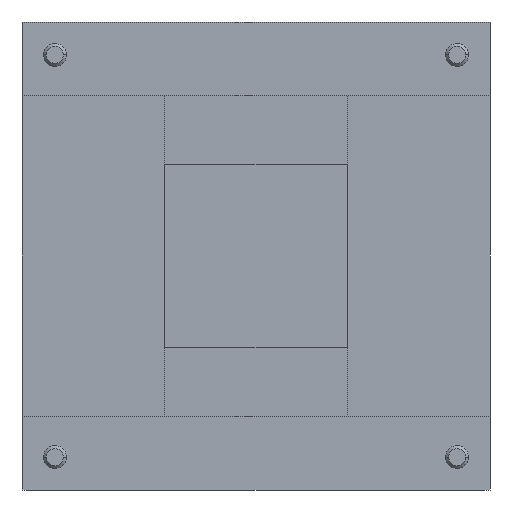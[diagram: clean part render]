
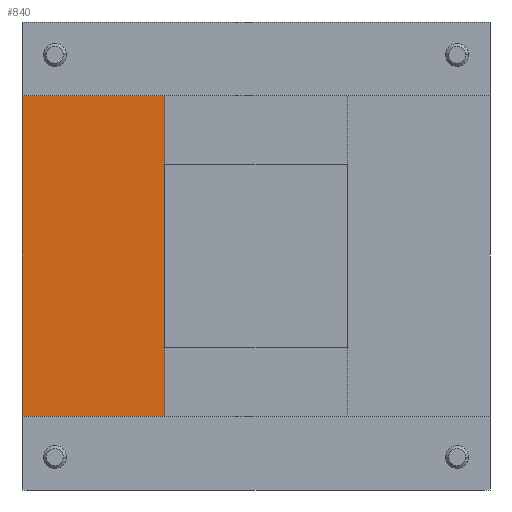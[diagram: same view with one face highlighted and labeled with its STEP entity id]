
A CAD part, front view. The second image highlights one B-rep face of the part: STEP entity #840.
In plain terms, the highlighted planar face has unit normal (0, -1, 0).
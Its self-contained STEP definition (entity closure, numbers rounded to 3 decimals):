
#312 = EDGE_CURVE ( 'NONE', #313, #314, #1328, .T. ) ;
#313 = VERTEX_POINT ( 'NONE', #1323 ) ;
#314 = VERTEX_POINT ( 'NONE', #1322 ) ;
#377 = EDGE_CURVE ( 'NONE', #314, #313, #1594, .T. ) ;
#378 = ORIENTED_EDGE ( 'NONE', *, *, #379, .T. ) ;
#379 = EDGE_CURVE ( 'NONE', #380, #836, #1540, .T. ) ;
#380 = VERTEX_POINT ( 'NONE', #1536 ) ;
#391 = EDGE_CURVE ( 'NONE', #392, #393, #1511, .T. ) ;
#392 = VERTEX_POINT ( 'NONE', #1507 ) ;
#393 = VERTEX_POINT ( 'NONE', #1506 ) ;
#565 = EDGE_CURVE ( 'NONE', #582, #583, #1956, .T. ) ;
#582 = VERTEX_POINT ( 'NONE', #1848 ) ;
#583 = VERTEX_POINT ( 'NONE', #1847 ) ;
#611 = ORIENTED_EDGE ( 'NONE', *, *, #612, .F. ) ;
#612 = EDGE_CURVE ( 'NONE', #583, #582, #1881, .T. ) ;
#647 = ORIENTED_EDGE ( 'NONE', *, *, #750, .F. ) ;
#750 = EDGE_CURVE ( 'NONE', #380, #765, #1992, .T. ) ;
#765 = VERTEX_POINT ( 'NONE', #2114 ) ;
#766 = ORIENTED_EDGE ( 'NONE', *, *, #391, .T. ) ;
#767 = ORIENTED_EDGE ( 'NONE', *, *, #777, .T. ) ;
#768 = VERTEX_POINT ( 'NONE', #2113 ) ;
#769 = EDGE_LOOP ( 'NONE', ( #378, #837, #766, #767, #835, #647 ) ) ;
#777 = EDGE_CURVE ( 'NONE', #393, #768, #2107, .T. ) ;
#788 = EDGE_LOOP ( 'NONE', ( #789, #611 ) ) ;
#789 = ORIENTED_EDGE ( 'NONE', *, *, #565, .F. ) ;
#797 = EDGE_LOOP ( 'NONE', ( #798, #799 ) ) ;
#798 = ORIENTED_EDGE ( 'NONE', *, *, #312, .F. ) ;
#799 = ORIENTED_EDGE ( 'NONE', *, *, #377, .F. ) ;
#835 = ORIENTED_EDGE ( 'NONE', *, *, #843, .F. ) ;
#836 = VERTEX_POINT ( 'NONE', #2428 ) ;
#837 = ORIENTED_EDGE ( 'NONE', *, *, #838, .T. ) ;
#838 = EDGE_CURVE ( 'NONE', #836, #392, #2427, .T. ) ;
#840 = ADVANCED_FACE ( 'NONE', ( #2312, #2311, #2310 ), #2309, .T. ) ;
#843 = EDGE_CURVE ( 'NONE', #765, #768, #2302, .T. ) ;
#1322 = CARTESIAN_POINT ( 'NONE',  ( -17.7, 0., 16.3 ) ) ;
#1323 = CARTESIAN_POINT ( 'NONE',  ( -17.7, 0., 19.1 ) ) ;
#1324 = DIRECTION ( 'NONE',  ( 1., 0., 0. ) ) ;
#1325 = DIRECTION ( 'NONE',  ( 0., -1., 0. ) ) ;
#1326 = CARTESIAN_POINT ( 'NONE',  ( -17.7, 0., 17.7 ) ) ;
#1327 = AXIS2_PLACEMENT_3D ( 'NONE', #1326, #1325, #1324 ) ;
#1328 = CIRCLE ( 'NONE', #1327, 1.4 ) ;
#1506 = CARTESIAN_POINT ( 'NONE',  ( -20.6, 0., -20.1 ) ) ;
#1507 = CARTESIAN_POINT ( 'NONE',  ( -20.6, 0., 20.1 ) ) ;
#1508 = DIRECTION ( 'NONE',  ( 0., 0., -1. ) ) ;
#1509 = VECTOR ( 'NONE', #1508, 1000. ) ;
#1510 = CARTESIAN_POINT ( 'NONE',  ( -20.6, 0., 20.6 ) ) ;
#1511 = LINE ( 'NONE', #1510, #1509 ) ;
#1536 = CARTESIAN_POINT ( 'NONE',  ( -8.045, 0., 20.6 ) ) ;
#1537 = DIRECTION ( 'NONE',  ( -1., 0., 0. ) ) ;
#1538 = VECTOR ( 'NONE', #1537, 1000. ) ;
#1539 = CARTESIAN_POINT ( 'NONE',  ( -8.045, 0., 20.6 ) ) ;
#1540 = LINE ( 'NONE', #1539, #1538 ) ;
#1590 = DIRECTION ( 'NONE',  ( 1., 0., 0. ) ) ;
#1591 = DIRECTION ( 'NONE',  ( 0., -1., 0. ) ) ;
#1592 = CARTESIAN_POINT ( 'NONE',  ( -17.7, 0., 17.7 ) ) ;
#1593 = AXIS2_PLACEMENT_3D ( 'NONE', #1592, #1591, #1590 ) ;
#1594 = CIRCLE ( 'NONE', #1593, 1.4 ) ;
#1847 = CARTESIAN_POINT ( 'NONE',  ( -17.7, 0., -19.1 ) ) ;
#1848 = CARTESIAN_POINT ( 'NONE',  ( -17.7, 0., -16.3 ) ) ;
#1877 = DIRECTION ( 'NONE',  ( 1., 0., 0. ) ) ;
#1878 = DIRECTION ( 'NONE',  ( 0., -1., 0. ) ) ;
#1879 = CARTESIAN_POINT ( 'NONE',  ( -17.7, 0., -17.7 ) ) ;
#1880 = AXIS2_PLACEMENT_3D ( 'NONE', #1879, #1878, #1877 ) ;
#1881 = CIRCLE ( 'NONE', #1880, 1.4 ) ;
#1953 = DIRECTION ( 'NONE',  ( 1., 0., 0. ) ) ;
#1954 = DIRECTION ( 'NONE',  ( 0., -1., 0. ) ) ;
#1955 = AXIS2_PLACEMENT_3D ( 'NONE', #1962, #1954, #1953 ) ;
#1956 = CIRCLE ( 'NONE', #1955, 1.4 ) ;
#1962 = CARTESIAN_POINT ( 'NONE',  ( -17.7, 0., -17.7 ) ) ;
#1989 = DIRECTION ( 'NONE',  ( 0., 0., -1. ) ) ;
#1990 = VECTOR ( 'NONE', #1989, 1000. ) ;
#1991 = CARTESIAN_POINT ( 'NONE',  ( -8.045, 0., 20.6 ) ) ;
#1992 = LINE ( 'NONE', #1991, #1990 ) ;
#2104 = DIRECTION ( 'NONE',  ( 0.707, 0., -0.707 ) ) ;
#2105 = VECTOR ( 'NONE', #2104, 1000. ) ;
#2106 = CARTESIAN_POINT ( 'NONE',  ( -34.673, 0., -6.027 ) ) ;
#2107 = LINE ( 'NONE', #2106, #2105 ) ;
#2113 = CARTESIAN_POINT ( 'NONE',  ( -20.1, 0., -20.6 ) ) ;
#2114 = CARTESIAN_POINT ( 'NONE',  ( -8.045, 0., -20.6 ) ) ;
#2299 = DIRECTION ( 'NONE',  ( -1., 0., 0. ) ) ;
#2300 = VECTOR ( 'NONE', #2299, 1000. ) ;
#2301 = CARTESIAN_POINT ( 'NONE',  ( -8.045, 0., -20.6 ) ) ;
#2302 = LINE ( 'NONE', #2301, #2300 ) ;
#2305 = DIRECTION ( 'NONE',  ( 1., 0., 0. ) ) ;
#2306 = DIRECTION ( 'NONE',  ( 0., -1., 0. ) ) ;
#2307 = CARTESIAN_POINT ( 'NONE',  ( -8.045, 0., 20.6 ) ) ;
#2308 = AXIS2_PLACEMENT_3D ( 'NONE', #2307, #2306, #2305 ) ;
#2309 = PLANE ( 'NONE',  #2308 ) ;
#2310 = FACE_OUTER_BOUND ( 'NONE', #769, .T. ) ;
#2311 = FACE_BOUND ( 'NONE', #797, .T. ) ;
#2312 = FACE_BOUND ( 'NONE', #788, .T. ) ;
#2424 = DIRECTION ( 'NONE',  ( -0.707, 0., -0.707 ) ) ;
#2425 = VECTOR ( 'NONE', #2424, 1000. ) ;
#2426 = CARTESIAN_POINT ( 'NONE',  ( -14.073, 0., 26.627 ) ) ;
#2427 = LINE ( 'NONE', #2426, #2425 ) ;
#2428 = CARTESIAN_POINT ( 'NONE',  ( -20.1, 0., 20.6 ) ) ;
